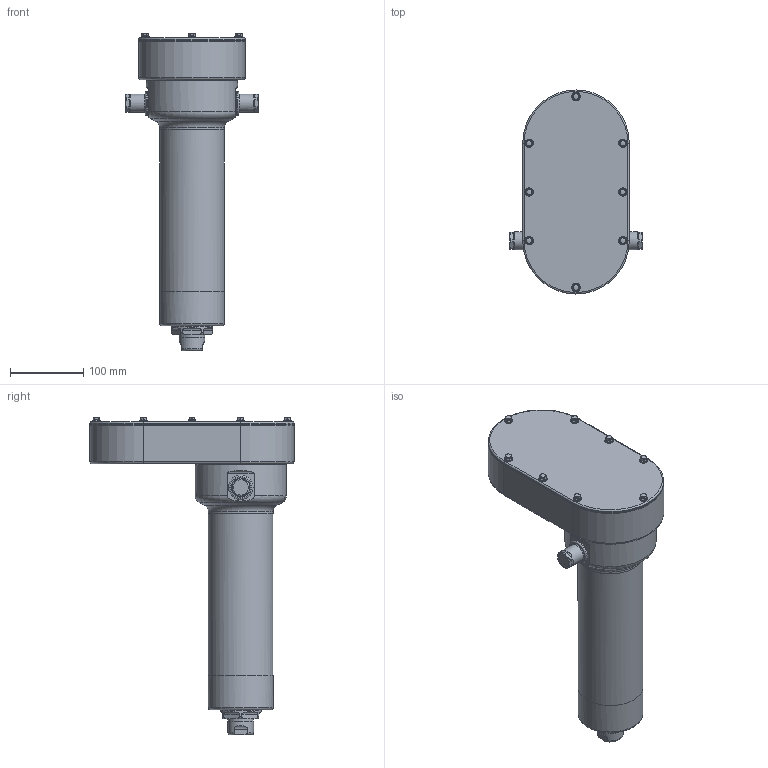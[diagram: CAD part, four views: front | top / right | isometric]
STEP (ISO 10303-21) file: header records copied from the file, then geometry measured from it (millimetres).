
FILE_DESCRIPTION (( 'STEP AP203' ), '1' );
FILE_NAME ('RSH25_RN04_SM125.000_RS-475078-1.step', '2024-11-15T11:03:33', ( '' ), ( '' ), 'SwSTEP 2.0', 'SolidWorks 2024', '' );
FILE_SCHEMA (( 'CONFIG_CONTROL_DESIGN' ));
Length unit declared in the file: inch
Products named in the file (4): tempJoin1_21259003_RSH25_RN04_SM125.000_RS-475078-1; Base_RSH25_RN04_SM125.000_RS-475078-1; RSH25_RN04_SM125.000_RS-475078-1; 21251192_RSH25_RN04_SM125.000_RS-475078-1
Assembly tree (3 placements, depth 2):
  RSH25_RN04_SM125.000_RS-475078-1
    tempJoin1_21259003_RSH25_RN04_SM125.000_RS-475078-1
    21251192_RSH25_RN04_SM125.000_RS-475078-1
    Base_RSH25_RN04_SM125.000_RS-475078-1
Bounding box: 182.15 x 279.45 x 435.28 mm (x, y, z)
Volume: 3234672.3 mm3; surface area: 583118.8 mm2
Topology: 5 solids, 57 shells, 2962 faces, 7750 edges, 4956 vertices
Faces by surface type: cylinder 1237, plane 908, bspline 438, cone 189, torus 180, sphere 10
Full cylindrical faces by diameter (mm): 3.242 x15, 4.2 x9, 4.254 x10, 5 x24, 5.588 x8, 6 x17, 6.35 x5, 6.401 x1, 6.477 x2, 6.5 x8, 6.7 x16, 7.01 x10, 7.938 x1, 7.949 x9, 8 x9, 10 x9, 10.76 x1, 11.1 x8, 12.675 x1, 15 x2, 15.088 x1, 15.164 x1, 17.93 x1, 17.986 x1, 18 x1, 19.05 x2, 19.304 x2, 19.558 x1, 20.879 x1, 23.5 x2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
Entity records: 105793 total; most frequent: CARTESIAN_POINT 36491, DIRECTION 14319, ORIENTED_EDGE 14120, EDGE_CURVE 7060, AXIS2_PLACEMENT_3D 5705, VERTEX_POINT 4739, EDGE_LOOP 3693, FACE_OUTER_BOUND 3305
